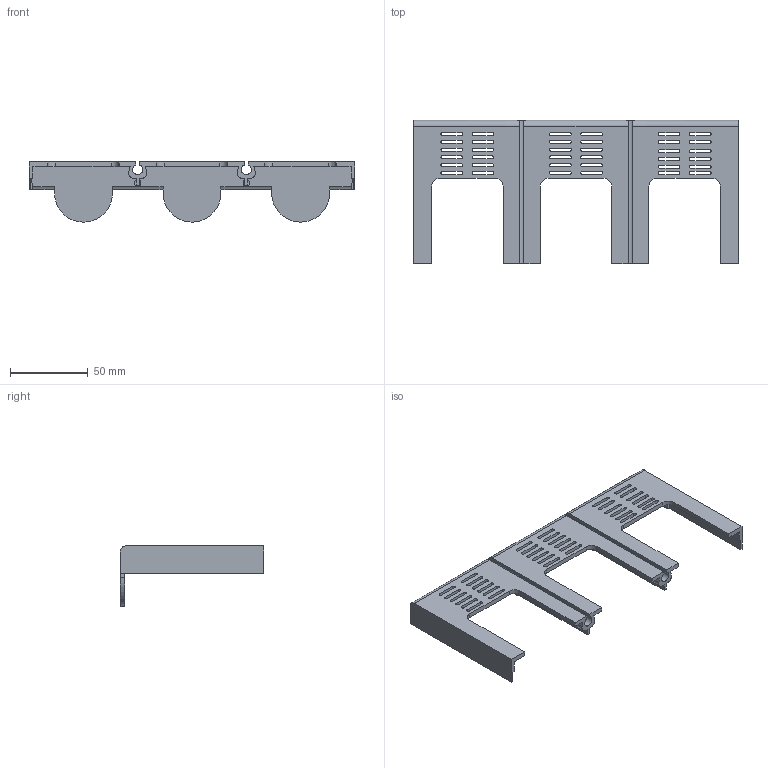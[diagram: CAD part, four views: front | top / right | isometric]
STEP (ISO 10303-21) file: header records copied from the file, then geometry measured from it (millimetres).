
FILE_DESCRIPTION (( 'STEP AP214' ), '1' );
FILE_NAME ('!TGM1NE-1250-3P 孰屐祉 牮觇.STEP', '2025-12-10T13:31:53', ( '' ), ( '' ), 'SwSTEP 2.0', 'SolidWorks 2024', '' );
FILE_SCHEMA (( 'AUTOMOTIVE_DESIGN' ));
Length unit declared in the file: millimetre
Products named in the file (3): !TGM1NE-1250-3P Клеммные крышки.stp; !TGM1NE-1250-3P Клеммные крышки; 8TZD_742_6479_1_1.stp
Assembly tree (2 placements, depth 3):
  !TGM1NE-1250-3P Клеммные крышки
    !TGM1NE-1250-3P Клеммные крышки.stp
      8TZD_742_6479_1_1.stp
Bounding box: 210 x 92.5 x 38.85 mm (x, y, z)
Volume: 61435.4 mm3; surface area: 50832.9 mm2
Topology: 1 solids, 1 shells, 276 faces, 822 edges, 548 vertices
Faces by surface type: cylinder 140, plane 136
Entity records: 9650 total; most frequent: CARTESIAN_POINT 1757, DIRECTION 1651, ORIENTED_EDGE 1644, EDGE_CURVE 822, AXIS2_PLACEMENT_3D 558, VERTEX_POINT 548, VECTOR 535, LINE 535
